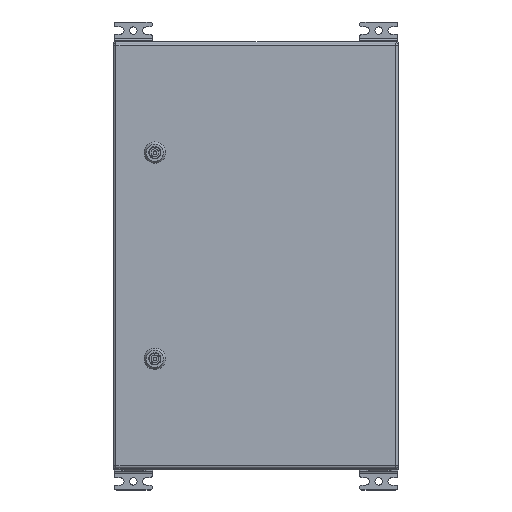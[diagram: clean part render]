
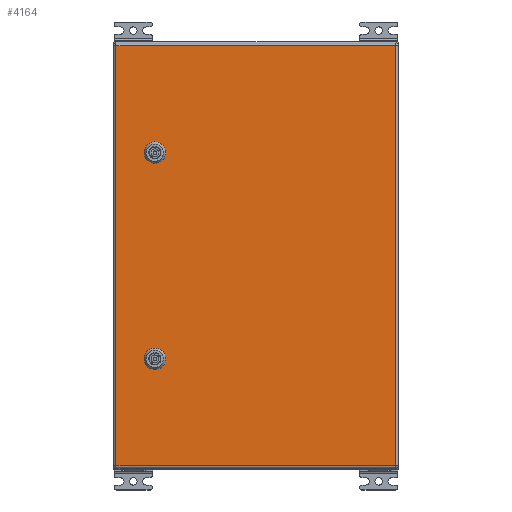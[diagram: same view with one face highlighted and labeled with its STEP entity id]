
A CAD part, top view. The second image highlights one B-rep face of the part: STEP entity #4164.
In plain terms, the highlighted planar face has unit normal (0, 0, 1).
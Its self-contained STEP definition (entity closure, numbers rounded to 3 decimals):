
#4164=ADVANCED_FACE('',(#11547,#11549,#11551),#11553,.T.);
#11547=FACE_BOUND('',#11548,.T.);
#11548=EDGE_LOOP('',(#32772,#32773,#32774,#32775));
#11549=FACE_BOUND('',#11550,.T.);
#11550=EDGE_LOOP('',(#32776,#32777,#32778,#32779,#32780,#32781,#32782,#32783));
#11551=FACE_BOUND('',#11552,.T.);
#11552=EDGE_LOOP('',(#32784,#32785,#32786,#32787,#32788,#32789,#32790,#32791));
#11553=PLANE('',#11554);
#11554=AXIS2_PLACEMENT_3D('',#11555,#11556,#11557);
#11555=CARTESIAN_POINT('',(0.,0.,1.5));
#11556=DIRECTION('',(0.,0.,1.));
#11557=DIRECTION('',(1.,0.,0.));
#32772=ORIENTED_EDGE('',*,*,#36336,.T.);
#32773=ORIENTED_EDGE('',*,*,#36337,.T.);
#32774=ORIENTED_EDGE('',*,*,#36269,.T.);
#32775=ORIENTED_EDGE('',*,*,#36338,.T.);
#32776=ORIENTED_EDGE('',*,*,#36339,.T.);
#32777=ORIENTED_EDGE('',*,*,#36340,.T.);
#32778=ORIENTED_EDGE('',*,*,#36341,.T.);
#32779=ORIENTED_EDGE('',*,*,#36342,.T.);
#32780=ORIENTED_EDGE('',*,*,#36343,.T.);
#32781=ORIENTED_EDGE('',*,*,#36344,.T.);
#32782=ORIENTED_EDGE('',*,*,#36345,.T.);
#32783=ORIENTED_EDGE('',*,*,#36346,.T.);
#32784=ORIENTED_EDGE('',*,*,#36347,.T.);
#32785=ORIENTED_EDGE('',*,*,#36348,.T.);
#32786=ORIENTED_EDGE('',*,*,#36349,.T.);
#32787=ORIENTED_EDGE('',*,*,#36350,.T.);
#32788=ORIENTED_EDGE('',*,*,#36351,.T.);
#32789=ORIENTED_EDGE('',*,*,#36352,.T.);
#32790=ORIENTED_EDGE('',*,*,#36353,.T.);
#32791=ORIENTED_EDGE('',*,*,#36354,.T.);
#36269=EDGE_CURVE('',#39276,#39274,#39277,.T.);
#36336=EDGE_CURVE('',#39393,#39394,#39395,.T.);
#36337=EDGE_CURVE('',#39394,#39276,#39396,.T.);
#36338=EDGE_CURVE('',#39274,#39393,#39397,.T.);
#36339=EDGE_CURVE('',#39398,#39399,#39400,.T.);
#36340=EDGE_CURVE('',#39399,#39401,#39402,.F.);
#36341=EDGE_CURVE('',#39401,#39403,#39404,.T.);
#36342=EDGE_CURVE('',#39403,#39405,#39406,.F.);
#36343=EDGE_CURVE('',#39405,#39407,#39408,.T.);
#36344=EDGE_CURVE('',#39407,#39409,#39410,.F.);
#36345=EDGE_CURVE('',#39409,#39411,#39412,.T.);
#36346=EDGE_CURVE('',#39411,#39398,#39413,.F.);
#36347=EDGE_CURVE('',#39414,#39415,#39416,.T.);
#36348=EDGE_CURVE('',#39415,#39417,#39418,.F.);
#36349=EDGE_CURVE('',#39417,#39419,#39420,.T.);
#36350=EDGE_CURVE('',#39419,#39421,#39422,.F.);
#36351=EDGE_CURVE('',#39421,#39423,#39424,.T.);
#36352=EDGE_CURVE('',#39423,#39425,#39426,.F.);
#36353=EDGE_CURVE('',#39425,#39427,#39428,.T.);
#36354=EDGE_CURVE('',#39427,#39414,#39429,.F.);
#39274=VERTEX_POINT('',#47142);
#39276=VERTEX_POINT('',#47147);
#39277=LINE('',#47148,#47149);
#39393=VERTEX_POINT('',#47421);
#39394=VERTEX_POINT('',#47422);
#39395=LINE('',#47423,#47424);
#39396=LINE('',#47426,#47427);
#39397=LINE('',#47429,#47430);
#39398=VERTEX_POINT('',#47432);
#39399=VERTEX_POINT('',#47433);
#39400=CIRCLE('',#47434,11.25);
#39401=VERTEX_POINT('',#47438);
#39402=LINE('',#47439,#47440);
#39403=VERTEX_POINT('',#47442);
#39404=CIRCLE('',#47443,11.25);
#39405=VERTEX_POINT('',#47447);
#39406=LINE('',#47448,#47449);
#39407=VERTEX_POINT('',#47451);
#39408=CIRCLE('',#47452,11.25);
#39409=VERTEX_POINT('',#47456);
#39410=LINE('',#47457,#47458);
#39411=VERTEX_POINT('',#47460);
#39412=CIRCLE('',#47461,11.25);
#39413=LINE('',#47465,#47466);
#39414=VERTEX_POINT('',#47468);
#39415=VERTEX_POINT('',#47469);
#39416=CIRCLE('',#47470,11.25);
#39417=VERTEX_POINT('',#47474);
#39418=LINE('',#47475,#47476);
#39419=VERTEX_POINT('',#47478);
#39420=CIRCLE('',#47479,11.25);
#39421=VERTEX_POINT('',#47483);
#39422=LINE('',#47484,#47485);
#39423=VERTEX_POINT('',#47487);
#39424=CIRCLE('',#47488,11.25);
#39425=VERTEX_POINT('',#47492);
#39426=LINE('',#47493,#47494);
#39427=VERTEX_POINT('',#47496);
#39428=CIRCLE('',#47497,11.25);
#39429=LINE('',#47501,#47502);
#47142=CARTESIAN_POINT('',(0.,0.,1.5));
#47147=CARTESIAN_POINT('',(0.,-392.,1.5));
#47148=CARTESIAN_POINT('',(0.,-392.,1.5));
#47149=VECTOR('',#47150,1.);
#47150=DIRECTION('',(0.,1.,0.));
#47421=CARTESIAN_POINT('',(-589.,0.,1.5));
#47422=CARTESIAN_POINT('',(-589.,-392.,1.5));
#47423=CARTESIAN_POINT('',(-589.,0.,1.5));
#47424=VECTOR('',#47425,1.);
#47425=DIRECTION('',(0.,-1.,0.));
#47426=CARTESIAN_POINT('',(-589.,-392.,1.5));
#47427=VECTOR('',#47428,1.);
#47428=DIRECTION('',(1.,0.,0.));
#47429=CARTESIAN_POINT('',(0.,0.,1.5));
#47430=VECTOR('',#47431,1.);
#47431=DIRECTION('',(-1.,0.,0.));
#47432=CARTESIAN_POINT('',(-449.1,-49.545,1.5));
#47433=CARTESIAN_POINT('',(-443.955,-44.4,1.5));
#47434=AXIS2_PLACEMENT_3D('',#47435,#47436,#47437);
#47435=CARTESIAN_POINT('',(-439.,-54.5,1.5));
#47436=DIRECTION('',(0.,0.,-1.));
#47437=DIRECTION('',(-0.898,0.44,0.));
#47438=CARTESIAN_POINT('',(-434.045,-44.4,1.5));
#47439=CARTESIAN_POINT('',(-434.045,-44.4,1.5));
#47440=VECTOR('',#47441,1.);
#47441=DIRECTION('',(-1.,0.,0.));
#47442=CARTESIAN_POINT('',(-428.9,-49.545,1.5));
#47443=AXIS2_PLACEMENT_3D('',#47444,#47445,#47446);
#47444=CARTESIAN_POINT('',(-439.,-54.5,1.5));
#47445=DIRECTION('',(0.,0.,-1.));
#47446=DIRECTION('',(0.44,0.898,0.));
#47447=CARTESIAN_POINT('',(-428.9,-59.455,1.5));
#47448=CARTESIAN_POINT('',(-428.9,-59.455,1.5));
#47449=VECTOR('',#47450,1.);
#47450=DIRECTION('',(0.,1.,0.));
#47451=CARTESIAN_POINT('',(-434.045,-64.6,1.5));
#47452=AXIS2_PLACEMENT_3D('',#47453,#47454,#47455);
#47453=CARTESIAN_POINT('',(-439.,-54.5,1.5));
#47454=DIRECTION('',(0.,0.,-1.));
#47455=DIRECTION('',(0.898,-0.44,0.));
#47456=CARTESIAN_POINT('',(-443.955,-64.6,1.5));
#47457=CARTESIAN_POINT('',(-443.955,-64.6,1.5));
#47458=VECTOR('',#47459,1.);
#47459=DIRECTION('',(1.,0.,0.));
#47460=CARTESIAN_POINT('',(-449.1,-59.455,1.5));
#47461=AXIS2_PLACEMENT_3D('',#47462,#47463,#47464);
#47462=CARTESIAN_POINT('',(-439.,-54.5,1.5));
#47463=DIRECTION('',(0.,0.,-1.));
#47464=DIRECTION('',(-0.44,-0.898,0.));
#47465=CARTESIAN_POINT('',(-449.1,-49.545,1.5));
#47466=VECTOR('',#47467,1.);
#47467=DIRECTION('',(0.,-1.,0.));
#47468=CARTESIAN_POINT('',(-160.1,-49.545,1.5));
#47469=CARTESIAN_POINT('',(-154.955,-44.4,1.5));
#47470=AXIS2_PLACEMENT_3D('',#47471,#47472,#47473);
#47471=CARTESIAN_POINT('',(-150.,-54.5,1.5));
#47472=DIRECTION('',(0.,0.,-1.));
#47473=DIRECTION('',(-0.898,0.44,0.));
#47474=CARTESIAN_POINT('',(-145.045,-44.4,1.5));
#47475=CARTESIAN_POINT('',(-145.045,-44.4,1.5));
#47476=VECTOR('',#47477,1.);
#47477=DIRECTION('',(-1.,0.,0.));
#47478=CARTESIAN_POINT('',(-139.9,-49.545,1.5));
#47479=AXIS2_PLACEMENT_3D('',#47480,#47481,#47482);
#47480=CARTESIAN_POINT('',(-150.,-54.5,1.5));
#47481=DIRECTION('',(0.,0.,-1.));
#47482=DIRECTION('',(0.44,0.898,0.));
#47483=CARTESIAN_POINT('',(-139.9,-59.455,1.5));
#47484=CARTESIAN_POINT('',(-139.9,-59.455,1.5));
#47485=VECTOR('',#47486,1.);
#47486=DIRECTION('',(0.,1.,0.));
#47487=CARTESIAN_POINT('',(-145.045,-64.6,1.5));
#47488=AXIS2_PLACEMENT_3D('',#47489,#47490,#47491);
#47489=CARTESIAN_POINT('',(-150.,-54.5,1.5));
#47490=DIRECTION('',(0.,0.,-1.));
#47491=DIRECTION('',(0.898,-0.44,0.));
#47492=CARTESIAN_POINT('',(-154.955,-64.6,1.5));
#47493=CARTESIAN_POINT('',(-154.955,-64.6,1.5));
#47494=VECTOR('',#47495,1.);
#47495=DIRECTION('',(1.,0.,0.));
#47496=CARTESIAN_POINT('',(-160.1,-59.455,1.5));
#47497=AXIS2_PLACEMENT_3D('',#47498,#47499,#47500);
#47498=CARTESIAN_POINT('',(-150.,-54.5,1.5));
#47499=DIRECTION('',(0.,0.,-1.));
#47500=DIRECTION('',(-0.44,-0.898,0.));
#47501=CARTESIAN_POINT('',(-160.1,-49.545,1.5));
#47502=VECTOR('',#47503,1.);
#47503=DIRECTION('',(0.,-1.,0.));
